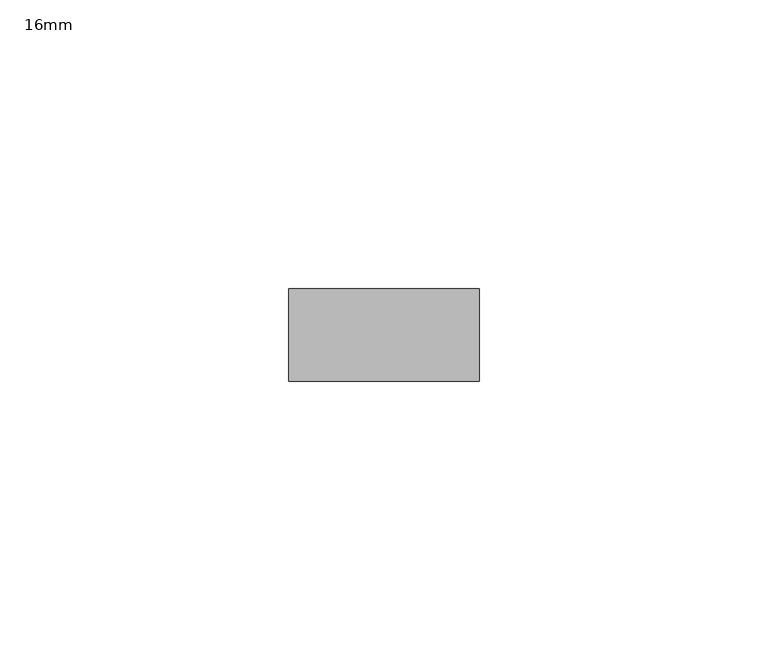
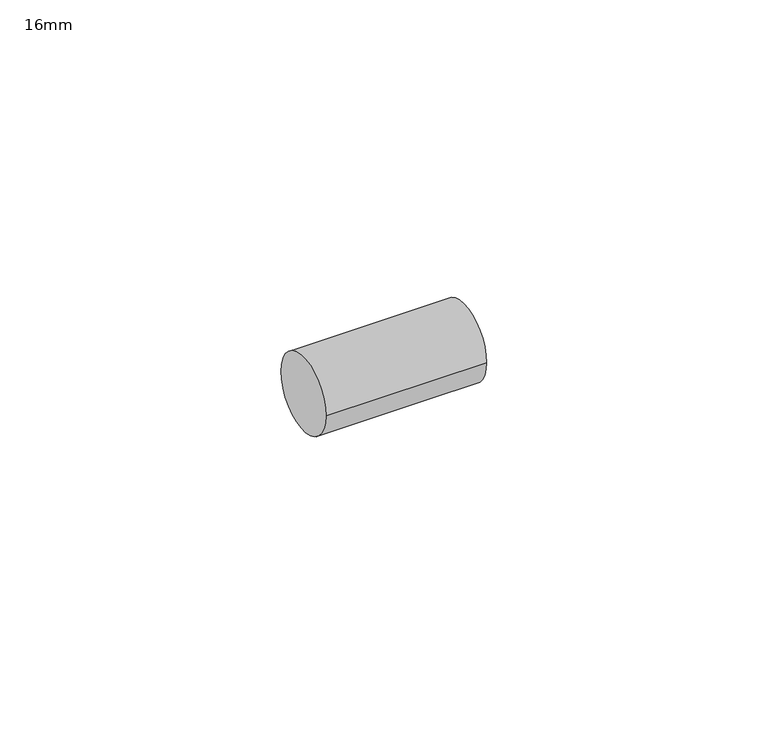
"""IFC4 building model written with IfcOpenShell, lengths in millimetres: pipe fitting geometry, PipeFitting_HTA_CPVC_PlainNipples : 16mm."""

import ifcopenshell
import ifcopenshell.guid

model = None  # the IFC model being written
_history = None  # IfcOwnerHistory: only IFC2X3 demands one
_inside = {}  # id of a spatial element -> (the spatial element, [elements in it])
_under = {}  # id of a project, library or spatial element -> (it, [spatial elements below it])
_declared = {}  # id of a project -> (the project, [libraries it declares])
_typed = {}  # id of a type object -> (the type object, [elements of that type])
_made_of = {}  # id of a material, layer set ... -> (it, [elements and type objects made of it])


def new_model(schema):
    """Start an empty IFC model of exactly this schema.

    Asked for "IFC4X3", IfcOpenShell would pick the latest addendum, in which some entities
    have other attributes; the version numbers below select the first issue.
    IFC2X3 requires an IfcOwnerHistory on every rooted entity: one is made here for all.
    """
    global model, _history
    if schema == "IFC4X3":
        model = ifcopenshell.file(schema_version=(4, 3, 0, 0))
    else:
        model = ifcopenshell.file(schema=schema)
    _inside.clear()
    _under.clear()
    _declared.clear()
    _typed.clear()
    _made_of.clear()
    _history = None
    if model.schema == "IFC2X3":
        org = make("IfcOrganization", Name="unknown")
        user = make(
            "IfcPersonAndOrganization",
            ThePerson=make("IfcPerson", FamilyName="unknown"),
            TheOrganization=org,
        )
        app = make(
            "IfcApplication",
            ApplicationDeveloper=org,
            Version="unknown",
            ApplicationFullName="unknown",
            ApplicationIdentifier="unknown",
        )
        _history = make(
            "IfcOwnerHistory",
            OwningUser=user,
            OwningApplication=app,
            ChangeAction="ADDED",
            CreationDate=0,
        )
    return model


def make(cls, **values):
    """One entity of the class cls with the attributes given. An attribute that is None is left unset."""
    return model.create_entity(
        cls, **{name: value for name, value in values.items() if value is not None}
    )


def rooted(cls, **values):
    """An entity with a GlobalId (a new one), such as an element, a storey or a relation."""
    return make(cls, GlobalId=ifcopenshell.guid.new(), OwnerHistory=_history, **values)


def si_unit(unit_type, name, prefix=None):
    """IfcSIUnit, for example si_unit("LENGTHUNIT", "METRE", prefix="MILLI")."""
    return make("IfcSIUnit", UnitType=unit_type, Prefix=prefix, Name=name)


def assignment(units):
    """IfcUnitAssignment: the units of a project."""
    return None if units is None else make("IfcUnitAssignment", Units=units)


def point(xyz):
    """IfcCartesianPoint."""
    return None if xyz is None else make("IfcCartesianPoint", Coordinates=xyz)


def direction(xyz):
    """IfcDirection."""
    return None if xyz is None else make("IfcDirection", DirectionRatios=xyz)


def frame(location, z_axis=None, x_axis=None):
    """IfcAxis2Placement3D, a coordinate frame: its origin and axes. An axis left out is left unset."""
    return make(
        "IfcAxis2Placement3D",
        Location=point(location),
        Axis=direction(z_axis),
        RefDirection=direction(x_axis),
    )


def frame_2d(location, x_axis=None):
    """IfcAxis2Placement2D, a coordinate frame in the plane: its origin and x axis."""
    return make(
        "IfcAxis2Placement2D", Location=point(location), RefDirection=direction(x_axis)
    )


def origin():
    """The frame at (0, 0, 0) with its axes left unset."""
    return frame((0.0, 0.0, 0.0))


def origin_2d():
    """The frame at (0, 0) in the plane with its x axis left unset."""
    return frame_2d((0.0, 0.0))


def place(relative_to, where):
    """IfcLocalPlacement: puts the frame where relative to a parent placement (None: the world)."""
    return make(
        "IfcLocalPlacement", PlacementRelTo=relative_to, RelativePlacement=where
    )


def context(
    kind, dimensions, precision=None, world=None, true_north=None, identifier=None
):
    """IfcGeometricRepresentationContext, for example the 3D "Model" context."""
    return make(
        "IfcGeometricRepresentationContext",
        ContextIdentifier=identifier,
        ContextType=kind,
        CoordinateSpaceDimension=dimensions,
        Precision=precision,
        WorldCoordinateSystem=world,
        TrueNorth=true_north,
    )


def project(units=None, contexts=None):
    """IfcProject with its units and contexts."""
    return rooted(
        "IfcProject",
        Name="project",
        RepresentationContexts=contexts,
        UnitsInContext=assignment(units),
    )


def spatial(cls, under=None, at=None, **own):
    """A site, building, storey or space (cls), placed at a placement, below another one or the project."""
    s = rooted(cls, ObjectPlacement=at, **own)
    if under is not None:
        _under.setdefault(under.id(), (under, []))[1].append(s)
    return s


def circle_curve(where, radius):
    """IfcCircle in the frame where."""
    return make("IfcCircle", Position=where, Radius=radius)


def trimmed(basis, trim1, trim2, sense, master):
    """IfcTrimmedCurve: the piece of a basis curve between two trims."""
    return make(
        "IfcTrimmedCurve",
        BasisCurve=basis,
        Trim1=trim1,
        Trim2=trim2,
        SenseAgreement=sense,
        MasterRepresentation=master,
    )


def segment(curve, same_sense, transition):
    """IfcCompositeCurveSegment."""
    return make(
        "IfcCompositeCurveSegment",
        Transition=transition,
        SameSense=same_sense,
        ParentCurve=curve,
    )


def composite_curve(segments, self_intersect=None):
    """IfcCompositeCurve: segments joined end to end."""
    return make("IfcCompositeCurve", Segments=segments, SelfIntersect=self_intersect)


def outline(outer, holes=None, kind="AREA"):
    """IfcArbitraryClosedProfileDef: a profile drawn as a closed curve; with holes, ...WithVoids."""
    if holes is None:
        return make("IfcArbitraryClosedProfileDef", ProfileType=kind, OuterCurve=outer)
    return make(
        "IfcArbitraryProfileDefWithVoids",
        ProfileType=kind,
        OuterCurve=outer,
        InnerCurves=holes,
    )


def extrude(swept, where, along, depth):
    """IfcExtrudedAreaSolid: the profile swept, set in the frame where, extruded along a direction by depth."""
    return make(
        "IfcExtrudedAreaSolid",
        SweptArea=swept,
        Position=where,
        ExtrudedDirection=direction(along),
        Depth=depth,
    )


def shape(context_of_items, identifier, shape_type, items):
    """IfcShapeRepresentation: the items that make up one representation, for example the "Body"."""
    return make(
        "IfcShapeRepresentation",
        ContextOfItems=context_of_items,
        RepresentationIdentifier=identifier,
        RepresentationType=shape_type,
        Items=items,
    )


def source(mapping_origin, context_of_items, identifier, shape_type, items):
    """IfcRepresentationMap: a shape defined once, which mapped items show again and again."""
    return make(
        "IfcRepresentationMap",
        MappingOrigin=mapping_origin,
        MappedRepresentation=shape(context_of_items, identifier, shape_type, items),
    )


def transform(
    local_origin,
    x_axis=None,
    y_axis=None,
    z_axis=None,
    scale=None,
    scale2=None,
    scale3=None,
    uniform=True,
):
    """IfcCartesianTransformationOperator3D, or its non-uniform kind. x_axis, y_axis, z_axis: its Axis1, 2, 3."""
    if uniform:
        return make(
            "IfcCartesianTransformationOperator3D",
            Axis1=direction(x_axis),
            Axis2=direction(y_axis),
            LocalOrigin=point(local_origin),
            Scale=scale,
            Axis3=direction(z_axis),
        )
    return make(
        "IfcCartesianTransformationOperator3DnonUniform",
        Axis1=direction(x_axis),
        Axis2=direction(y_axis),
        LocalOrigin=point(local_origin),
        Scale=scale,
        Axis3=direction(z_axis),
        Scale2=scale2,
        Scale3=scale3,
    )


def mapped(mapping_source, mapping_target):
    """IfcMappedItem: shows the shape of a source again, moved by a transform."""
    return make(
        "IfcMappedItem", MappingSource=mapping_source, MappingTarget=mapping_target
    )


def made_of(thing, what):
    """Note that an element or type object is made of a material, layer set ...; save() writes the relation."""
    if what is not None:
        _made_of.setdefault(what.id(), (what, []))[1].append(thing)
    return thing


def element(
    cls,
    number,
    at=None,
    inside=None,
    cuts=None,
    type_object=None,
    material=None,
    context=None,
    identifier="Body",
    shape_type=None,
    held_by="IfcProductDefinitionShape",
    body=None,
    shapes=None,
    **own,
):
    """One element of the class cls, such as IfcWall. Its Tag is "e" and its number.

    at: its placement. inside: the storey or other place that contains it. cuts: it is an
    opening in that element (IfcRelVoidsElement). A single representation is given by context,
    identifier, shape_type and body (its items); several are given by shapes. held_by: the class
    of the entity that holds the representations. save() writes the other relations.
    """
    e = rooted(cls, Tag="e%d" % number, ObjectPlacement=at, **own)
    if body is not None:
        shapes = [shape(context, identifier, shape_type, body)]
    if shapes is not None:
        e.Representation = make(held_by, Representations=shapes)
    if inside is not None:
        _inside.setdefault(inside.id(), (inside, []))[1].append(e)
    if cuts is not None:
        rooted(
            "IfcRelVoidsElement", RelatingBuildingElement=cuts, RelatedOpeningElement=e
        )
    if type_object is not None:
        _typed.setdefault(type_object.id(), (type_object, []))[1].append(e)
    return made_of(e, material)


def aggregate(whole, parts):
    """IfcRelAggregates: a whole, such as a stair, and the parts it consists of."""
    return rooted("IfcRelAggregates", RelatingObject=whole, RelatedObjects=parts)


def save(model, path):
    """Write the relations noted so far, then the file.

    IfcRelAggregates (storeys below a building ...), IfcRelContainedInSpatialStructure (elements
    in a storey), IfcRelDefinesByType, IfcRelAssociatesMaterial and IfcRelDeclares: one each for
    every whole, place, type object, material and project.
    """
    for whole, parts in _under.values():
        aggregate(whole, parts)
    for where, things in _inside.values():
        rooted(
            "IfcRelContainedInSpatialStructure",
            RelatedElements=things,
            RelatingStructure=where,
        )
    for kind, things in _typed.values():
        rooted("IfcRelDefinesByType", RelatedObjects=things, RelatingType=kind)
    for what, things in _made_of.values():
        rooted("IfcRelAssociatesMaterial", RelatedObjects=things, RelatingMaterial=what)
    for by, libraries in _declared.values():
        rooted("IfcRelDeclares", RelatingContext=by, RelatedDefinitions=libraries)
    model.write(path)


def pipe_fitting_16mm_18e35515(model_context):
    return source(origin(), model_context, "Body", "SweptSolid", [
        extrude(outline(composite_curve([segment(trimmed(circle_curve(origin_2d(), 8.0), [point((-8.0, 0.0))], [point((8.0, 0.0))], False, "CARTESIAN"), True, "CONTINUOUS"), segment(trimmed(circle_curve(origin_2d(), 8.0), [point((8.0, 0.0))], [point((-8.0, 0.0))], False, "CARTESIAN"), True, "CONTINUOUS")], self_intersect=False)), frame((-16.5, 0.0, 0.0), z_axis=(1.0, 0.0, 0.0), x_axis=(0.0, 1.0, 0.0)), (0.0, 0.0, 1.0), 33.0),
    ])


if __name__ == "__main__":
    model = new_model("IFC4")
    model_context = context("Model", 3, world=origin())
    ifc_project = project(units=[si_unit("LENGTHUNIT", "METRE", prefix="MILLI")], contexts=[model_context])
    site = spatial("IfcSite", under=ifc_project)
    building = spatial("IfcBuilding", under=site)
    placement = place(None, origin())
    pipe_fitting_16mm_shape = pipe_fitting_16mm_18e35515(model_context)
    element("IfcPipeFitting", 1, ObjectType="PipeFitting_HTA_CPVC_PlainNipples : 16mm", at=placement, inside=building, context=model_context, shape_type="MappedRepresentation", body=[
        mapped(pipe_fitting_16mm_shape, transform((0.0, 0.0, 0.0), x_axis=(1.0, 0.0, 0.0), y_axis=(0.0, 1.0, 0.0), z_axis=(0.0, 0.0, 1.0))),
    ])
    save(model, "model.ifc")
